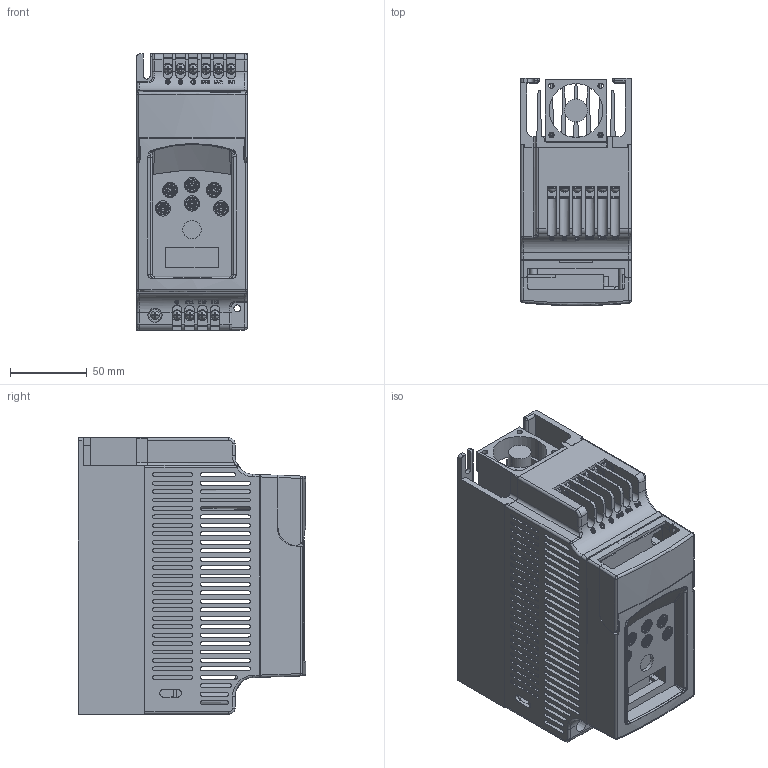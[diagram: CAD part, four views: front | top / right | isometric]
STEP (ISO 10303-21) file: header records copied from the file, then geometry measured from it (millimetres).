
FILE_DESCRIPTION((''),'2;1');
FILE_NAME('ASM0001_ASM','2023-08-03T17:15:26',('ZhangJF'),(''),'CREO PARAMETRIC BY PTC INC, 2019010','CREO PARAMETRIC BY PTC INC, 2019010','');
FILE_SCHEMA(('CONFIG_CONTROL_DESIGN','SHAPE_APPEARANCE_LAYERS_GROUPS'));
Products named in the file (32): S900-HEATSINK; FAN; DRIVER-P; PIN; D3_GB97_1; M3X8_GB818; PIN_ASM; PIN_AF0; M3X8_GB818_AF0; M3X8_GB818_AF1; M3X8_GB818_AF2; M3X8_GB818_AF3; M3X8_GB818_AF4; M3X8_GB818_AF5; PIN-LOW_ASM; PIN_AF1; D3_GB97_1_AF0; M3X8_GB818_AF6; D3_GB97_1_AF1; M3X8_GB818_AF7; M3X8_GB818_AF8; M3X8_GB818_AF9; M3X8_GB818_AF10; M3X8_GB818_AF11; PIN-LOW-4_ASM; DRIVER-P_ASM; KONGZHIHE; FANGAI; 55555; M3X10_GB818; MID-2; ASM0001_ASM
Assembly tree (61 placements, depth 4):
  ASM0001_ASM
    S900-HEATSINK
    FAN
    DRIVER-P_ASM
      DRIVER-P
      PIN_ASM
        PIN
        D3_GB97_1  x6
        M3X8_GB818  x6
      PIN-LOW_ASM
        PIN_AF0
        D3_GB97_1  x6
        M3X8_GB818_AF0
        M3X8_GB818_AF1
        M3X8_GB818_AF2
        M3X8_GB818_AF3
        M3X8_GB818_AF4
        M3X8_GB818_AF5
      PIN-LOW-4_ASM
        PIN_AF1
        D3_GB97_1_AF0
        M3X8_GB818_AF6
        D3_GB97_1_AF1
        M3X8_GB818_AF7
        D3_GB97_1  x4
        M3X8_GB818_AF8
        M3X8_GB818_AF9
        M3X8_GB818_AF10
        M3X8_GB818_AF11
    KONGZHIHE
    FANGAI
    55555
    M3X10_GB818  x11
    MID-2
Bounding box: 72 x 147.97 x 180 mm (x, y, z)
Volume: 454972 mm3; surface area: 379352.4 mm2
Topology: 54 solids, 54 shells, 3211 faces, 8655 edges, 5669 vertices
Faces by surface type: plane 1865, cylinder 832, torus 144, bspline 141, extrusion 141, sphere 62, cone 26
Entity records: 94205 total; most frequent: CARTESIAN_POINT 24903, ORIENTED_EDGE 14782, DIRECTION 13491, EDGE_CURVE 7391, VERTEX_POINT 4859, AXIS2_PLACEMENT_3D 4578, VECTOR 4335, LINE 4194
